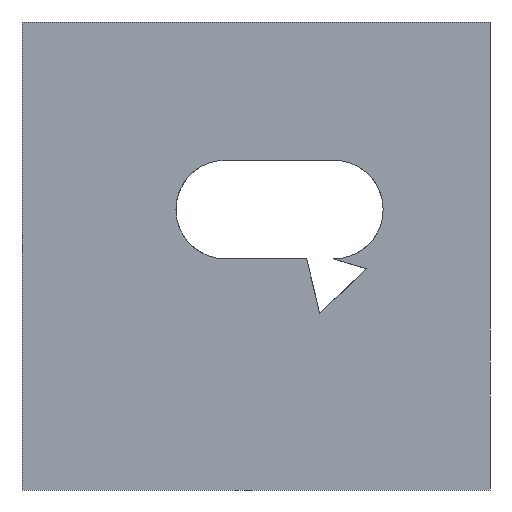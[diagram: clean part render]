
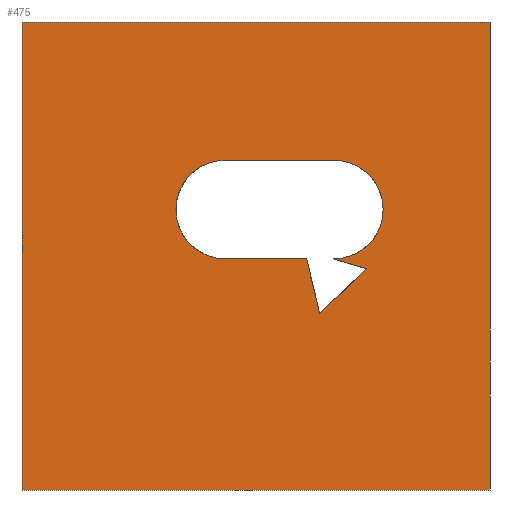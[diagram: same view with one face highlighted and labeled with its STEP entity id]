
A CAD part, left-side view. The second image highlights one B-rep face of the part: STEP entity #475.
In plain terms, the highlighted planar face has unit normal (-1, 0, 0).
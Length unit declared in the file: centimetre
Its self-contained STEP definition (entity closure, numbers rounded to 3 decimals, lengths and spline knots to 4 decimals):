
#16 = DIRECTION ( 'NONE',  ( 0., -1., 0. ) ) ;
#19 = CARTESIAN_POINT ( 'NONE',  ( 0., 565.7423, 704.5601 ) ) ;
#53 = EDGE_CURVE ( 'NONE', #451, #1303, #75, .T. ) ;
#75 = LINE ( 'NONE', #948, #512 ) ;
#117 = CARTESIAN_POINT ( 'NONE',  ( 0., 333.5627, 493.9091 ) ) ;
#123 = LINE ( 'NONE', #1701, #1067 ) ;
#125 = CARTESIAN_POINT ( 'NONE',  ( 0., 263.5068, 472.7023 ) ) ;
#160 = VECTOR ( 'NONE', #16, 100. ) ;
#162 = CARTESIAN_POINT ( 'NONE',  ( 0., 263.5068, 472.7023 ) ) ;
#186 = CARTESIAN_POINT ( 'NONE',  ( 0., 565.7423, 599.2346 ) ) ;
#189 = ORIENTED_EDGE ( 'NONE', *, *, #1343, .T. ) ;
#258 = LINE ( 'NONE', #1390, #1474 ) ;
#263 = CARTESIAN_POINT ( 'NONE',  ( 0., 1000., 1000. ) ) ;
#311 = EDGE_LOOP ( 'NONE', ( #1581, #744, #1342, #1560 ) ) ;
#318 = EDGE_LOOP ( 'NONE', ( #1056, #323, #723, #338, #1185, #984, #770, #189 ) ) ;
#323 = ORIENTED_EDGE ( 'NONE', *, *, #1689, .T. ) ;
#337 = VECTOR ( 'NONE', #1536, 100. ) ;
#338 = ORIENTED_EDGE ( 'NONE', *, *, #1644, .T. ) ;
#435 = DIRECTION ( 'NONE',  ( 0., 0., -1. ) ) ;
#437 = DIRECTION ( 'NONE',  ( 0., 1., 0. ) ) ;
#451 = VERTEX_POINT ( 'NONE', #125 ) ;
#456 = CARTESIAN_POINT ( 'NONE',  ( 0., 1000., 0. ) ) ;
#462 = VERTEX_POINT ( 'NONE', #1231 ) ;
#475 = ADVANCED_FACE ( 'NONE', ( #1387, #1642 ), #966, .F. ) ;
#484 = VERTEX_POINT ( 'NONE', #1117 ) ;
#512 = VECTOR ( 'NONE', #1223, 100. ) ;
#513 = CARTESIAN_POINT ( 'NONE',  ( 0., 565.7423, 704.5601 ) ) ;
#554 = EDGE_CURVE ( 'NONE', #1280, #1743, #1260, .T. ) ;
#576 = CIRCLE ( 'NONE', #631, 105.3255 ) ;
#631 = AXIS2_PLACEMENT_3D ( 'NONE', #1194, #647, #1201 ) ;
#647 = DIRECTION ( 'NONE',  ( 1., 0., 0. ) ) ;
#657 = DIRECTION ( 'NONE',  ( 0., -1., 0. ) ) ;
#686 = AXIS2_PLACEMENT_3D ( 'NONE', #186, #1292, #1397 ) ;
#691 = CARTESIAN_POINT ( 'NONE',  ( 0., 333.5627, 493.9091 ) ) ;
#698 = DIRECTION ( 'NONE',  ( 1., 0., 0. ) ) ;
#703 = DIRECTION ( 'NONE',  ( 0., 0., -1. ) ) ;
#711 = LINE ( 'NONE', #1398, #1300 ) ;
#723 = ORIENTED_EDGE ( 'NONE', *, *, #53, .T. ) ;
#744 = ORIENTED_EDGE ( 'NONE', *, *, #949, .F. ) ;
#770 = ORIENTED_EDGE ( 'NONE', *, *, #1372, .T. ) ;
#776 = CARTESIAN_POINT ( 'NONE',  ( 0., 391.8363, 493.9091 ) ) ;
#804 = DIRECTION ( 'NONE',  ( 0., -1., 0. ) ) ;
#842 = LINE ( 'NONE', #1663, #1069 ) ;
#844 = CARTESIAN_POINT ( 'NONE',  ( 0., 333.5627, 704.5601 ) ) ;
#862 = DIRECTION ( 'NONE',  ( 0., -0.959, -0.284 ) ) ;
#867 = AXIS2_PLACEMENT_3D ( 'NONE', #263, #698, #1784 ) ;
#890 = LINE ( 'NONE', #456, #160 ) ;
#948 = CARTESIAN_POINT ( 'NONE',  ( 0., 363.8796, 377.4545 ) ) ;
#949 = EDGE_CURVE ( 'NONE', #1466, #1712, #123, .T. ) ;
#966 = PLANE ( 'NONE',  #867 ) ;
#975 = DIRECTION ( 'NONE',  ( 0., 1., 0. ) ) ;
#984 = ORIENTED_EDGE ( 'NONE', *, *, #1058, .T. ) ;
#987 = CARTESIAN_POINT ( 'NONE',  ( 0., 396.1802, 512.0038 ) ) ;
#1056 = ORIENTED_EDGE ( 'NONE', *, *, #1497, .T. ) ;
#1058 = EDGE_CURVE ( 'NONE', #1743, #1541, #1297, .T. ) ;
#1067 = VECTOR ( 'NONE', #435, 100. ) ;
#1069 = VECTOR ( 'NONE', #804, 100. ) ;
#1091 = EDGE_CURVE ( 'NONE', #1312, #1712, #890, .T. ) ;
#1117 = CARTESIAN_POINT ( 'NONE',  ( 0., 1000., 1000. ) ) ;
#1119 = CARTESIAN_POINT ( 'NONE',  ( 0., 0., 0. ) ) ;
#1185 = ORIENTED_EDGE ( 'NONE', *, *, #554, .T. ) ;
#1194 = CARTESIAN_POINT ( 'NONE',  ( 0., 333.5627, 599.2346 ) ) ;
#1201 = DIRECTION ( 'NONE',  ( 0., 0., -1. ) ) ;
#1211 = VECTOR ( 'NONE', #657, 100. ) ;
#1223 = DIRECTION ( 'NONE',  ( 0., 0.725, -0.688 ) ) ;
#1231 = CARTESIAN_POINT ( 'NONE',  ( 0., 335.0964, 493.9091 ) ) ;
#1260 = LINE ( 'NONE', #691, #1634 ) ;
#1275 = LINE ( 'NONE', #162, #1728 ) ;
#1280 = VERTEX_POINT ( 'NONE', #776 ) ;
#1292 = DIRECTION ( 'NONE',  ( 1., 0., 0. ) ) ;
#1297 = CIRCLE ( 'NONE', #686, 105.3255 ) ;
#1300 = VECTOR ( 'NONE', #437, 100. ) ;
#1303 = VERTEX_POINT ( 'NONE', #1329 ) ;
#1312 = VERTEX_POINT ( 'NONE', #1604 ) ;
#1329 = CARTESIAN_POINT ( 'NONE',  ( 0., 363.8796, 377.4545 ) ) ;
#1342 = ORIENTED_EDGE ( 'NONE', *, *, #1785, .F. ) ;
#1343 = EDGE_CURVE ( 'NONE', #1561, #1788, #576, .T. ) ;
#1372 = EDGE_CURVE ( 'NONE', #1541, #1561, #1502, .T. ) ;
#1387 = FACE_BOUND ( 'NONE', #318, .T. ) ;
#1390 = CARTESIAN_POINT ( 'NONE',  ( 0., 1000., 1000. ) ) ;
#1397 = DIRECTION ( 'NONE',  ( 0., 0., -1. ) ) ;
#1398 = CARTESIAN_POINT ( 'NONE',  ( 0., 333.5627, 493.9091 ) ) ;
#1466 = VERTEX_POINT ( 'NONE', #1656 ) ;
#1474 = VECTOR ( 'NONE', #703, 100. ) ;
#1497 = EDGE_CURVE ( 'NONE', #1788, #462, #711, .T. ) ;
#1502 = LINE ( 'NONE', #513, #1211 ) ;
#1516 = LINE ( 'NONE', #987, #337 ) ;
#1536 = DIRECTION ( 'NONE',  ( 0., 0.233, 0.972 ) ) ;
#1541 = VERTEX_POINT ( 'NONE', #19 ) ;
#1560 = ORIENTED_EDGE ( 'NONE', *, *, #1572, .T. ) ;
#1561 = VERTEX_POINT ( 'NONE', #844 ) ;
#1572 = EDGE_CURVE ( 'NONE', #484, #1312, #258, .T. ) ;
#1581 = ORIENTED_EDGE ( 'NONE', *, *, #1091, .T. ) ;
#1604 = CARTESIAN_POINT ( 'NONE',  ( 0., 1000., 0. ) ) ;
#1634 = VECTOR ( 'NONE', #975, 100. ) ;
#1642 = FACE_OUTER_BOUND ( 'NONE', #311, .T. ) ;
#1644 = EDGE_CURVE ( 'NONE', #1303, #1280, #1516, .T. ) ;
#1645 = CARTESIAN_POINT ( 'NONE',  ( 0., 565.7423, 493.9091 ) ) ;
#1656 = CARTESIAN_POINT ( 'NONE',  ( 0., 0., 1000. ) ) ;
#1663 = CARTESIAN_POINT ( 'NONE',  ( 0., 1000., 1000. ) ) ;
#1689 = EDGE_CURVE ( 'NONE', #462, #451, #1275, .T. ) ;
#1701 = CARTESIAN_POINT ( 'NONE',  ( 0., 0., 1000. ) ) ;
#1712 = VERTEX_POINT ( 'NONE', #1119 ) ;
#1728 = VECTOR ( 'NONE', #862, 100. ) ;
#1743 = VERTEX_POINT ( 'NONE', #1645 ) ;
#1784 = DIRECTION ( 'NONE',  ( 0., 0., -1. ) ) ;
#1785 = EDGE_CURVE ( 'NONE', #484, #1466, #842, .T. ) ;
#1788 = VERTEX_POINT ( 'NONE', #117 ) ;
